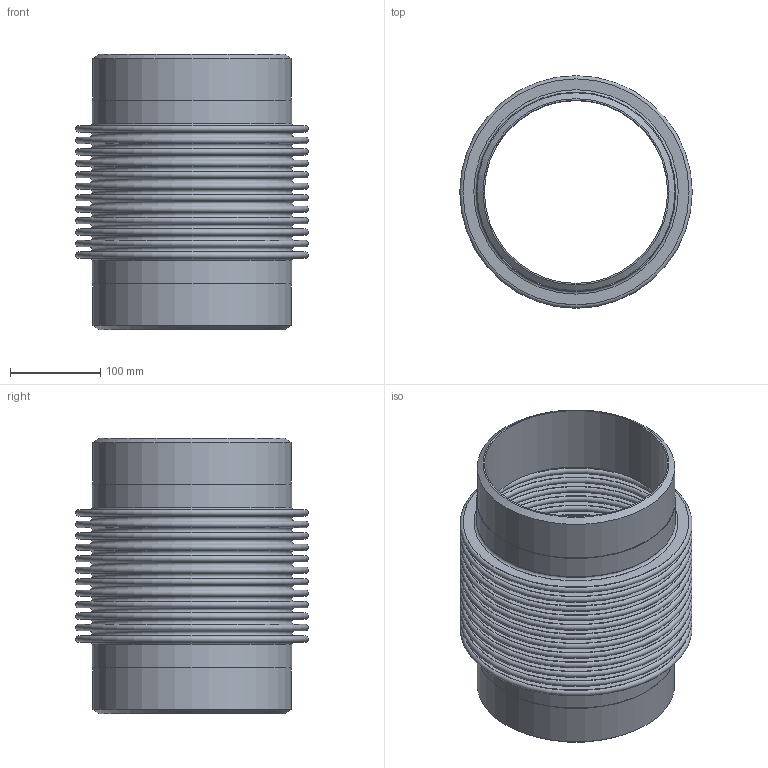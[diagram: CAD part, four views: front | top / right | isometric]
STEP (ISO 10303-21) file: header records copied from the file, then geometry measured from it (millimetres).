
FILE_DESCRIPTION(/* description */ ('EXPANSION JOINT,SINGLE, WELD ENDS,4 INCH NOMINAL'),/* implementation_level */ '2;1');
FILE_NAME(/* name */ 'ASSEMBLY US-8-12-85L.stp',/* time_stamp */ '2026-07-28T16:27:54-05:00',/* author */ ('jorgef'),/* organization */ (''),/* preprocessor_version */ 'ST-DEVELOPER v20.1',/* originating_system */ 'Autodesk Inventor 2026',/* authorisation */ '');
FILE_SCHEMA (('AUTOMOTIVE_DESIGN { 1 0 10303 214 3 1 1 }'));
Length unit declared in the file: inch
Products named in the file (3): ASSEMBLY  US-8-12-85L; STOCK BELLOW - US-8-12-85L; PIPE- US-8-12-85L
Assembly tree (3 placements, depth 2):
  ASSEMBLY  US-8-12-85L
    STOCK BELLOW - US-8-12-85L
    PIPE- US-8-12-85L  x2
Bounding box: 257.18 x 257.18 x 304.8 mm (x, y, z)
Volume: 1129873.5 mm3; surface area: 1079122.3 mm2
Topology: 5 solids, 5 shells, 118 faces, 180 edges, 121 vertices
Faces by surface type: plane 58, torus 50, cylinder 8, cone 2
Full cylindrical faces by diameter (mm): 202.717 x2, 219.075 x4, 220.599 x2
Entity records: 2769 total; most frequent: DIRECTION 573, CARTESIAN_POINT 405, ORIENTED_EDGE 342, AXIS2_PLACEMENT_3D 283, EDGE_CURVE 171, EDGE_LOOP 169, CIRCLE 164, VERTEX_POINT 114
